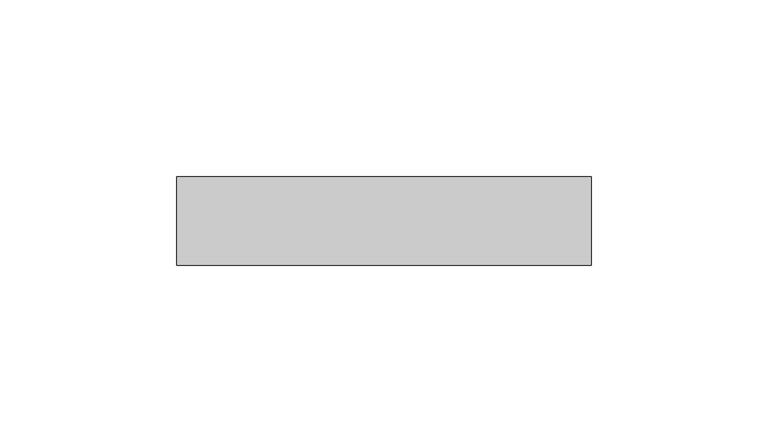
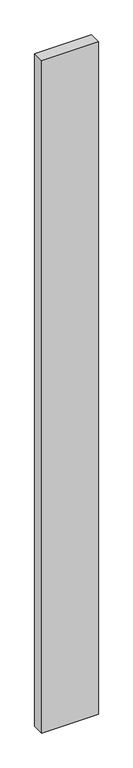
"""IFC4 building model written with IfcOpenShell, lengths in millimetres: plate geometry, 系统嵌板 : 玻璃."""

import ifcopenshell
import ifcopenshell.guid

model = None  # the IFC model being written
_history = None  # IfcOwnerHistory: only IFC2X3 demands one
_inside = {}  # id of a spatial element -> (the spatial element, [elements in it])
_under = {}  # id of a project, library or spatial element -> (it, [spatial elements below it])
_declared = {}  # id of a project -> (the project, [libraries it declares])
_typed = {}  # id of a type object -> (the type object, [elements of that type])
_made_of = {}  # id of a material, layer set ... -> (it, [elements and type objects made of it])


def new_model(schema):
    """Start an empty IFC model of exactly this schema.

    Asked for "IFC4X3", IfcOpenShell would pick the latest addendum, in which some entities
    have other attributes; the version numbers below select the first issue.
    IFC2X3 requires an IfcOwnerHistory on every rooted entity: one is made here for all.
    """
    global model, _history
    if schema == "IFC4X3":
        model = ifcopenshell.file(schema_version=(4, 3, 0, 0))
    else:
        model = ifcopenshell.file(schema=schema)
    _inside.clear()
    _under.clear()
    _declared.clear()
    _typed.clear()
    _made_of.clear()
    _history = None
    if model.schema == "IFC2X3":
        org = make("IfcOrganization", Name="unknown")
        user = make(
            "IfcPersonAndOrganization",
            ThePerson=make("IfcPerson", FamilyName="unknown"),
            TheOrganization=org,
        )
        app = make(
            "IfcApplication",
            ApplicationDeveloper=org,
            Version="unknown",
            ApplicationFullName="unknown",
            ApplicationIdentifier="unknown",
        )
        _history = make(
            "IfcOwnerHistory",
            OwningUser=user,
            OwningApplication=app,
            ChangeAction="ADDED",
            CreationDate=0,
        )
    return model


def make(cls, **values):
    """One entity of the class cls with the attributes given. An attribute that is None is left unset."""
    return model.create_entity(
        cls, **{name: value for name, value in values.items() if value is not None}
    )


def rooted(cls, **values):
    """An entity with a GlobalId (a new one), such as an element, a storey or a relation."""
    return make(cls, GlobalId=ifcopenshell.guid.new(), OwnerHistory=_history, **values)


def si_unit(unit_type, name, prefix=None):
    """IfcSIUnit, for example si_unit("LENGTHUNIT", "METRE", prefix="MILLI")."""
    return make("IfcSIUnit", UnitType=unit_type, Prefix=prefix, Name=name)


def assignment(units):
    """IfcUnitAssignment: the units of a project."""
    return None if units is None else make("IfcUnitAssignment", Units=units)


def point(xyz):
    """IfcCartesianPoint."""
    return None if xyz is None else make("IfcCartesianPoint", Coordinates=xyz)


def direction(xyz):
    """IfcDirection."""
    return None if xyz is None else make("IfcDirection", DirectionRatios=xyz)


def frame(location, z_axis=None, x_axis=None):
    """IfcAxis2Placement3D, a coordinate frame: its origin and axes. An axis left out is left unset."""
    return make(
        "IfcAxis2Placement3D",
        Location=point(location),
        Axis=direction(z_axis),
        RefDirection=direction(x_axis),
    )


def origin():
    """The frame at (0, 0, 0) with its axes left unset."""
    return frame((0.0, 0.0, 0.0))


def origin_with_axes():
    """The frame at (0, 0, 0) with the z axis (0, 0, 1) and the x axis (1, 0, 0) written out."""
    return frame((0.0, 0.0, 0.0), z_axis=(0.0, 0.0, 1.0), x_axis=(1.0, 0.0, 0.0))


def place(relative_to, where):
    """IfcLocalPlacement: puts the frame where relative to a parent placement (None: the world)."""
    return make(
        "IfcLocalPlacement", PlacementRelTo=relative_to, RelativePlacement=where
    )


def context(
    kind, dimensions, precision=None, world=None, true_north=None, identifier=None
):
    """IfcGeometricRepresentationContext, for example the 3D "Model" context."""
    return make(
        "IfcGeometricRepresentationContext",
        ContextIdentifier=identifier,
        ContextType=kind,
        CoordinateSpaceDimension=dimensions,
        Precision=precision,
        WorldCoordinateSystem=world,
        TrueNorth=true_north,
    )


def project(units=None, contexts=None):
    """IfcProject with its units and contexts."""
    return rooted(
        "IfcProject",
        Name="project",
        RepresentationContexts=contexts,
        UnitsInContext=assignment(units),
    )


def spatial(cls, under=None, at=None, **own):
    """A site, building, storey or space (cls), placed at a placement, below another one or the project."""
    s = rooted(cls, ObjectPlacement=at, **own)
    if under is not None:
        _under.setdefault(under.id(), (under, []))[1].append(s)
    return s


def polyline(points):
    """IfcPolyline through the points."""
    return make("IfcPolyline", Points=[point(p) for p in points])


def outline(outer, holes=None, kind="AREA"):
    """IfcArbitraryClosedProfileDef: a profile drawn as a closed curve; with holes, ...WithVoids."""
    if holes is None:
        return make("IfcArbitraryClosedProfileDef", ProfileType=kind, OuterCurve=outer)
    return make(
        "IfcArbitraryProfileDefWithVoids",
        ProfileType=kind,
        OuterCurve=outer,
        InnerCurves=holes,
    )


def extrude(swept, where, along, depth):
    """IfcExtrudedAreaSolid: the profile swept, set in the frame where, extruded along a direction by depth."""
    return make(
        "IfcExtrudedAreaSolid",
        SweptArea=swept,
        Position=where,
        ExtrudedDirection=direction(along),
        Depth=depth,
    )


def shape(context_of_items, identifier, shape_type, items):
    """IfcShapeRepresentation: the items that make up one representation, for example the "Body"."""
    return make(
        "IfcShapeRepresentation",
        ContextOfItems=context_of_items,
        RepresentationIdentifier=identifier,
        RepresentationType=shape_type,
        Items=items,
    )


def source(mapping_origin, context_of_items, identifier, shape_type, items):
    """IfcRepresentationMap: a shape defined once, which mapped items show again and again."""
    return make(
        "IfcRepresentationMap",
        MappingOrigin=mapping_origin,
        MappedRepresentation=shape(context_of_items, identifier, shape_type, items),
    )


def transform(
    local_origin,
    x_axis=None,
    y_axis=None,
    z_axis=None,
    scale=None,
    scale2=None,
    scale3=None,
    uniform=True,
):
    """IfcCartesianTransformationOperator3D, or its non-uniform kind. x_axis, y_axis, z_axis: its Axis1, 2, 3."""
    if uniform:
        return make(
            "IfcCartesianTransformationOperator3D",
            Axis1=direction(x_axis),
            Axis2=direction(y_axis),
            LocalOrigin=point(local_origin),
            Scale=scale,
            Axis3=direction(z_axis),
        )
    return make(
        "IfcCartesianTransformationOperator3DnonUniform",
        Axis1=direction(x_axis),
        Axis2=direction(y_axis),
        LocalOrigin=point(local_origin),
        Scale=scale,
        Axis3=direction(z_axis),
        Scale2=scale2,
        Scale3=scale3,
    )


def mapped(mapping_source, mapping_target):
    """IfcMappedItem: shows the shape of a source again, moved by a transform."""
    return make(
        "IfcMappedItem", MappingSource=mapping_source, MappingTarget=mapping_target
    )


def made_of(thing, what):
    """Note that an element or type object is made of a material, layer set ...; save() writes the relation."""
    if what is not None:
        _made_of.setdefault(what.id(), (what, []))[1].append(thing)
    return thing


def element(
    cls,
    number,
    at=None,
    inside=None,
    cuts=None,
    type_object=None,
    material=None,
    context=None,
    identifier="Body",
    shape_type=None,
    held_by="IfcProductDefinitionShape",
    body=None,
    shapes=None,
    **own,
):
    """One element of the class cls, such as IfcWall. Its Tag is "e" and its number.

    at: its placement. inside: the storey or other place that contains it. cuts: it is an
    opening in that element (IfcRelVoidsElement). A single representation is given by context,
    identifier, shape_type and body (its items); several are given by shapes. held_by: the class
    of the entity that holds the representations. save() writes the other relations.
    """
    e = rooted(cls, Tag="e%d" % number, ObjectPlacement=at, **own)
    if body is not None:
        shapes = [shape(context, identifier, shape_type, body)]
    if shapes is not None:
        e.Representation = make(held_by, Representations=shapes)
    if inside is not None:
        _inside.setdefault(inside.id(), (inside, []))[1].append(e)
    if cuts is not None:
        rooted(
            "IfcRelVoidsElement", RelatingBuildingElement=cuts, RelatedOpeningElement=e
        )
    if type_object is not None:
        _typed.setdefault(type_object.id(), (type_object, []))[1].append(e)
    return made_of(e, material)


def aggregate(whole, parts):
    """IfcRelAggregates: a whole, such as a stair, and the parts it consists of."""
    return rooted("IfcRelAggregates", RelatingObject=whole, RelatedObjects=parts)


def save(model, path):
    """Write the relations noted so far, then the file.

    IfcRelAggregates (storeys below a building ...), IfcRelContainedInSpatialStructure (elements
    in a storey), IfcRelDefinesByType, IfcRelAssociatesMaterial and IfcRelDeclares: one each for
    every whole, place, type object, material and project.
    """
    for whole, parts in _under.values():
        aggregate(whole, parts)
    for where, things in _inside.values():
        rooted(
            "IfcRelContainedInSpatialStructure",
            RelatedElements=things,
            RelatingStructure=where,
        )
    for kind, things in _typed.values():
        rooted("IfcRelDefinesByType", RelatedObjects=things, RelatingType=kind)
    for what, things in _made_of.values():
        rooted("IfcRelAssociatesMaterial", RelatedObjects=things, RelatingMaterial=what)
    for by, libraries in _declared.values():
        rooted("IfcRelDeclares", RelatingContext=by, RelatedDefinitions=libraries)
    model.write(path)


def plate_a414dcb1(model_context):
    return source(origin(), model_context, "Body", "SweptSolid", [
        extrude(outline(polyline([(58.5786436, -12.5), (-58.5786436, -12.5), (-58.5786436, 12.5), (58.5786436, 12.5), (58.5786436, -12.5)])), origin_with_axes(), (0.0, 0.0, 1.0), 1470.0),
    ])


if __name__ == "__main__":
    model = new_model("IFC4")
    model_context = context("Model", 3, world=origin())
    ifc_project = project(units=[si_unit("LENGTHUNIT", "METRE", prefix="MILLI")], contexts=[model_context])
    site = spatial("IfcSite", under=ifc_project)
    building = spatial("IfcBuilding", under=site)
    placement = place(None, origin())
    plate_shape = plate_a414dcb1(model_context)
    element("IfcPlate", 1, ObjectType="系统嵌板 : 玻璃", at=placement, inside=building, context=model_context, shape_type="MappedRepresentation", body=[
        mapped(plate_shape, transform((0.0, 0.0, 0.0), x_axis=(1.0, 0.0, 0.0), y_axis=(0.0, 1.0, 0.0), z_axis=(0.0, 0.0, 1.0))),
    ])
    save(model, "model.ifc")
